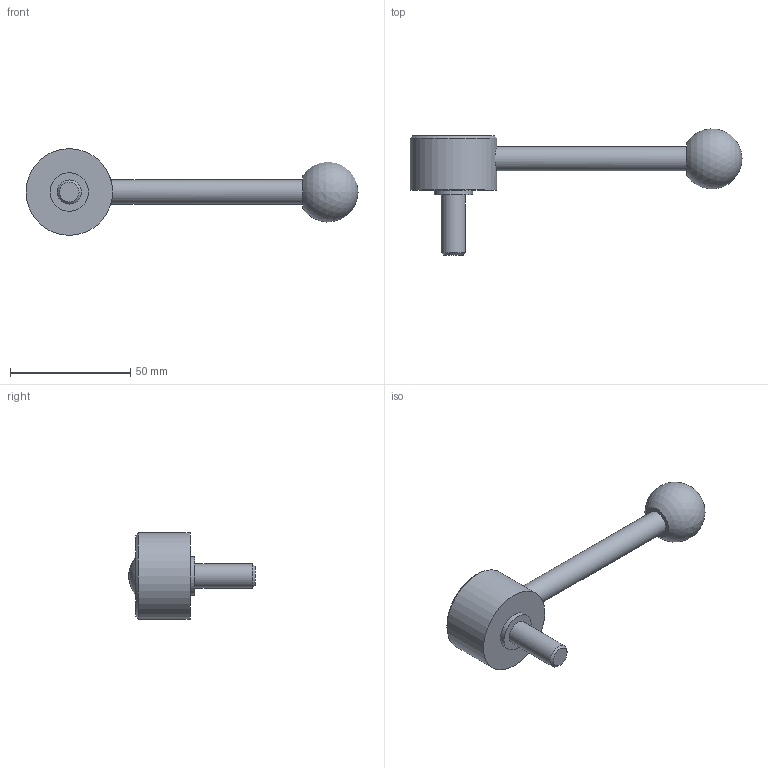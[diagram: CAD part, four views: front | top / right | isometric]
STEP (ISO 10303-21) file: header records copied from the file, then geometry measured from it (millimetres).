
FILE_DESCRIPTION( ( 'STEP AP203' ), '1' );
FILE_NAME( 'C:/Temp/Ganter_Step_05_03_2020/data/2_1/gn_125/gn_125_ms/gn_125_ms_d/Flat Adjustable Lever GN 125-36-M10-25-D.stp', '2020-03-05T11:00:47', ( 'License CC BY-ND 4.0' ), ( 'CADENAS' ), ' ', 'PARTsolutions', ' ' );
FILE_SCHEMA( ( 'CONFIG_CONTROL_DESIGN' ) );
Length unit declared in the file: millimetre
Products named in the file (1): _Flat Adjustable Lever GN 125-36-M10-25-D
Bounding box: 138 x 52.38 x 36 mm (x, y, z)
Volume: 39317.2 mm3; surface area: 9687.1 mm2
Topology: 1 solids, 1 shells, 14 faces, 23 edges, 15 vertices
Faces by surface type: plane 6, cylinder 5, cone 2, sphere 1
Full cylindrical faces by diameter (mm): 10 x2, 16 x1, 26 x1, 36 x1
Entity records: 392 total; most frequent: CARTESIAN_POINT 115, DIRECTION 54, AXIS2_PLACEMENT_3D 27, EDGE_LOOP 26, ORIENTED_EDGE 26, FACE_OUTER_BOUND 19, ADVANCED_FACE 14, VERTEX_POINT 14
